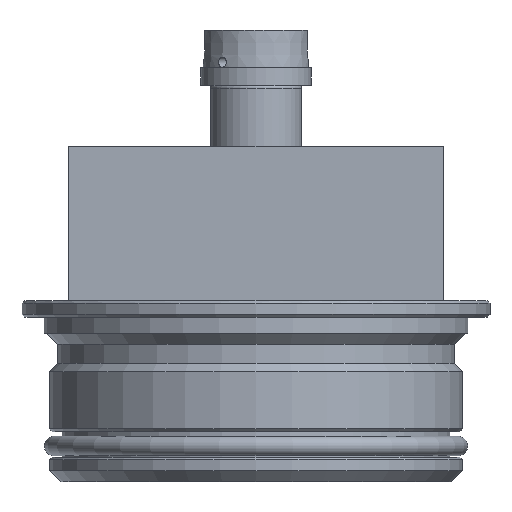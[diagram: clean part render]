
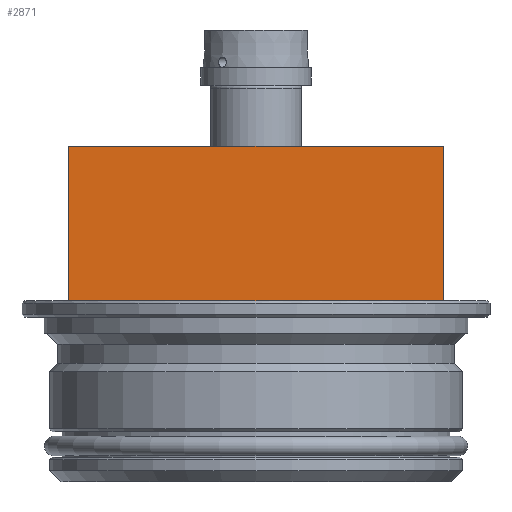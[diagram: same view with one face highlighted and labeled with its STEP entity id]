
A CAD part, front view. The second image highlights one B-rep face of the part: STEP entity #2871.
In plain terms, the highlighted planar face has unit normal (0, -1, 0).
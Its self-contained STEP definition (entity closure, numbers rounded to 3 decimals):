
#59=LINE('',#4119,#140);
#60=LINE('',#4122,#141);
#61=LINE('',#4124,#142);
#62=LINE('',#4126,#143);
#140=VECTOR('',#3494,1000.);
#141=VECTOR('',#3495,1000.);
#142=VECTOR('',#3496,1000.);
#143=VECTOR('',#3497,1000.);
#456=ORIENTED_EDGE('',*,*,#870,.T.);
#457=ORIENTED_EDGE('',*,*,#871,.T.);
#458=ORIENTED_EDGE('',*,*,#872,.T.);
#459=ORIENTED_EDGE('',*,*,#873,.F.);
#870=EDGE_CURVE('',#1096,#1097,#59,.T.);
#871=EDGE_CURVE('',#1097,#1098,#60,.T.);
#872=EDGE_CURVE('',#1098,#1099,#61,.T.);
#873=EDGE_CURVE('',#1096,#1099,#62,.T.);
#1096=VERTEX_POINT('',#4120);
#1097=VERTEX_POINT('',#4121);
#1098=VERTEX_POINT('',#4123);
#1099=VERTEX_POINT('',#4125);
#1429=EDGE_LOOP('',(#456,#457,#458,#459));
#1651=FACE_BOUND('',#1429,.T.);
#1802=PLANE('',#3073);
#2871=ADVANCED_FACE('',(#1651),#1802,.T.);
#3073=AXIS2_PLACEMENT_3D('',#4118,#3492,#3493);
#3492=DIRECTION('',(0.,-1.,0.));
#3493=DIRECTION('',(1.,0.,0.));
#3494=DIRECTION('',(0.,0.,-1.));
#3495=DIRECTION('',(1.,0.,0.));
#3496=DIRECTION('',(0.,0.,1.));
#3497=DIRECTION('',(1.,0.,0.));
#4118=CARTESIAN_POINT('',(86.5,-56.5,57.916));
#4119=CARTESIAN_POINT('',(-34.,-56.5,57.916));
#4120=CARTESIAN_POINT('',(-34.,-56.5,60.916));
#4121=CARTESIAN_POINT('',(-34.,-56.5,32.916));
#4122=CARTESIAN_POINT('',(86.5,-56.5,32.916));
#4123=CARTESIAN_POINT('',(34.,-56.5,32.916));
#4124=CARTESIAN_POINT('',(34.,-56.5,27.916));
#4125=CARTESIAN_POINT('',(34.,-56.5,60.916));
#4126=CARTESIAN_POINT('',(91.5,-56.5,60.916));
